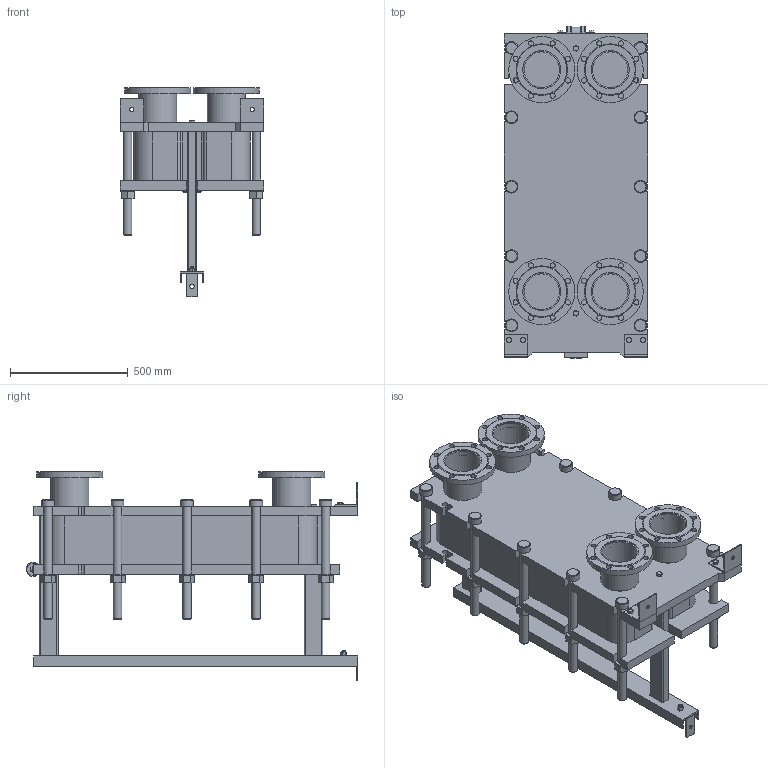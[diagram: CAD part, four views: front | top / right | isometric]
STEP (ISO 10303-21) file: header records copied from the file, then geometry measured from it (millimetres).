
FILE_DESCRIPTION(/* description */ (''),/* implementation_level */ '2;1');
FILE_NAME(/* name */ 'C:\Users\zhuro\Desktop\ENCO\TO\ЭН-041\ЭН-0,5-041-60-1.stp',/* time_stamp */ '2022-06-06T10:54:06+03:00',/* author */ ('zhuro'),/* organization */ (''),/* preprocessor_version */ 'ST-DEVELOPER v18.1',/* originating_system */ 'Autodesk Inventor 2022',/* authorisation */ '');
FILE_SCHEMA (('AUTOMOTIVE_DESIGN { 1 0 10303 214 3 1 1 }'));
Length unit declared in the file: millimetre
Products named in the file (1): ЭН-0,5-041-60-1
Bounding box: 610 x 1406.5 x 890 mm (x, y, z)
Volume: 194086766.3 mm3; surface area: 8142543.9 mm2
Topology: 52 solids, 52 shells, 711 faces, 1696 edges, 1094 vertices
Faces by surface type: plane 487, cylinder 177, cone 41, torus 6
Full cylindrical faces by diameter (mm): 8 x4, 10 x2, 16 x8, 18 x3, 22 x32, 36 x24, 50 x1, 54 x10, 60 x12, 151 x4, 161 x8, 280 x4
Entity records: 22667 total; most frequent: CARTESIAN_POINT 5230, DIRECTION 3644, ORIENTED_EDGE 3392, EDGE_CURVE 1696, AXIS2_PLACEMENT_3D 1272, LINE 1100, VECTOR 1100, VERTEX_POINT 1094
